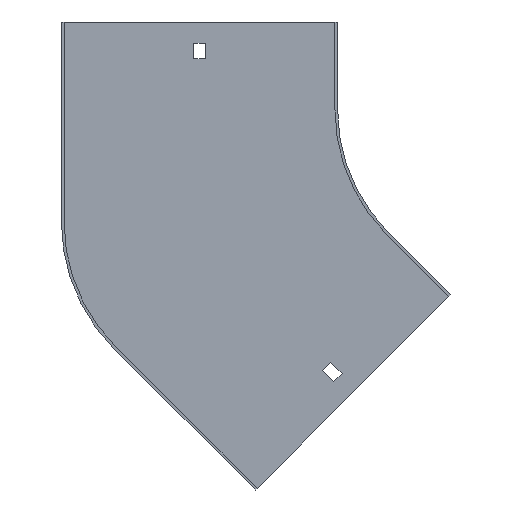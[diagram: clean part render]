
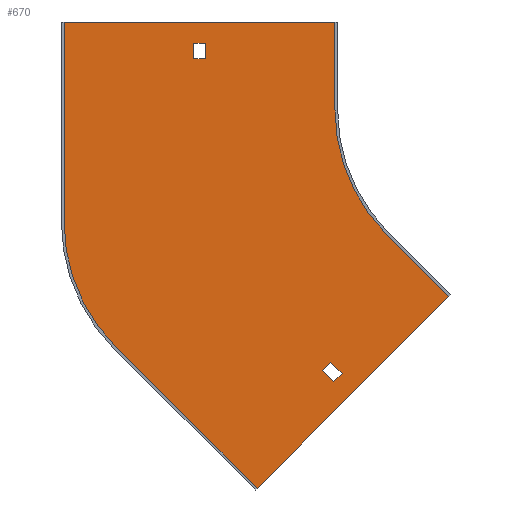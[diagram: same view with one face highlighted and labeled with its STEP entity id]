
A CAD part, front view. The second image highlights one B-rep face of the part: STEP entity #670.
In plain terms, the highlighted planar face has unit normal (0, -1, 0).
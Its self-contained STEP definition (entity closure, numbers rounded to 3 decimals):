
#5 = VERTEX_POINT ( 'NONE', #702 ) ;
#6 = FACE_BOUND ( 'NONE', #74, .T. ) ;
#9 = LINE ( 'NONE', #541, #732 ) ;
#13 = VERTEX_POINT ( 'NONE', #161 ) ;
#17 = CARTESIAN_POINT ( 'NONE',  ( -144.25, -1.5, -214.96 ) ) ;
#31 = CARTESIAN_POINT ( 'NONE',  ( -70.711, -1.5, -70.711 ) ) ;
#34 = VECTOR ( 'NONE', #714, 1000. ) ;
#37 = DIRECTION ( 'NONE',  ( 0., 1., 0. ) ) ;
#38 = DIRECTION ( 'NONE',  ( -0.707, 0., 0.707 ) ) ;
#40 = CARTESIAN_POINT ( 'NONE',  ( -100., -1.5, 50. ) ) ;
#46 = EDGE_CURVE ( 'NONE', #602, #584, #422, .T. ) ;
#53 = CARTESIAN_POINT ( 'NONE',  ( -255.5, -1.5, 50. ) ) ;
#56 = VERTEX_POINT ( 'NONE', #216 ) ;
#62 = VERTEX_POINT ( 'NONE', #633 ) ;
#65 = CARTESIAN_POINT ( 'NONE',  ( 0., -1.5, 0. ) ) ;
#71 = EDGE_CURVE ( 'NONE', #13, #527, #152, .T. ) ;
#74 = EDGE_LOOP ( 'NONE', ( #726, #441, #117, #862 ) ) ;
#76 = CARTESIAN_POINT ( 'NONE',  ( -34.295, -1.5, -105.005 ) ) ;
#83 = VERTEX_POINT ( 'NONE', #31 ) ;
#89 = CARTESIAN_POINT ( 'NONE',  ( -173.75, -1.5, 29. ) ) ;
#90 = CARTESIAN_POINT ( 'NONE',  ( 0., -1.5, 0. ) ) ;
#103 = VECTOR ( 'NONE', #419, 1000. ) ;
#104 = CARTESIAN_POINT ( 'NONE',  ( -144.25, -1.5, -214.96 ) ) ;
#109 = EDGE_CURVE ( 'NONE', #531, #525, #250, .T. ) ;
#113 = LINE ( 'NONE', #505, #620 ) ;
#116 = VERTEX_POINT ( 'NONE', #240 ) ;
#117 = ORIENTED_EDGE ( 'NONE', *, *, #355, .F. ) ;
#120 = EDGE_CURVE ( 'NONE', #594, #615, #304, .T. ) ;
#135 = ORIENTED_EDGE ( 'NONE', *, *, #694, .F. ) ;
#152 = LINE ( 'NONE', #761, #586 ) ;
#153 = CARTESIAN_POINT ( 'NONE',  ( -173.75, -1.5, 0. ) ) ;
#161 = CARTESIAN_POINT ( 'NONE',  ( -180.25, -1.5, 38. ) ) ;
#162 = CARTESIAN_POINT ( 'NONE',  ( 26.87, -1.5, -26.87 ) ) ;
#163 = LINE ( 'NONE', #302, #407 ) ;
#169 = CARTESIAN_POINT ( 'NONE',  ( -224.711, -1.5, -134.5 ) ) ;
#185 = PLANE ( 'NONE',  #513 ) ;
#211 = ORIENTED_EDGE ( 'NONE', *, *, #713, .F. ) ;
#216 = CARTESIAN_POINT ( 'NONE',  ( -100., -1.5, 0. ) ) ;
#223 = EDGE_LOOP ( 'NONE', ( #383, #393, #698, #786, #135, #211, #463, #343 ) ) ;
#224 = LINE ( 'NONE', #162, #789 ) ;
#240 = CARTESIAN_POINT ( 'NONE',  ( -180.25, -1.5, 29. ) ) ;
#250 = LINE ( 'NONE', #722, #352 ) ;
#268 = DIRECTION ( 'NONE',  ( 0., 0., -1. ) ) ;
#275 = VERTEX_POINT ( 'NONE', #17 ) ;
#279 = LINE ( 'NONE', #76, #103 ) ;
#295 = DIRECTION ( 'NONE',  ( 0., 0., -1. ) ) ;
#296 = DIRECTION ( 'NONE',  ( 0., 0., 1. ) ) ;
#302 = CARTESIAN_POINT ( 'NONE',  ( -254., -1.5, -63.789 ) ) ;
#304 = LINE ( 'NONE', #53, #545 ) ;
#312 = VERTEX_POINT ( 'NONE', #89 ) ;
#313 = CARTESIAN_POINT ( 'NONE',  ( -70.711, -1.5, -70.711 ) ) ;
#314 = FACE_OUTER_BOUND ( 'NONE', #223, .T. ) ;
#322 = ORIENTED_EDGE ( 'NONE', *, *, #723, .T. ) ;
#327 = DIRECTION ( 'NONE',  ( 0., -1., 0. ) ) ;
#343 = ORIENTED_EDGE ( 'NONE', *, *, #473, .F. ) ;
#352 = VECTOR ( 'NONE', #716, 1000. ) ;
#353 = VECTOR ( 'NONE', #295, 1000. ) ;
#355 = EDGE_CURVE ( 'NONE', #525, #400, #742, .T. ) ;
#358 = LINE ( 'NONE', #104, #374 ) ;
#366 = CARTESIAN_POINT ( 'NONE',  ( -173.75, -1.5, 38. ) ) ;
#374 = VECTOR ( 'NONE', #38, 1000. ) ;
#376 = DIRECTION ( 'NONE',  ( 1., 0., 0. ) ) ;
#378 = DIRECTION ( 'NONE',  ( 0.707, 0., -0.707 ) ) ;
#383 = ORIENTED_EDGE ( 'NONE', *, *, #120, .F. ) ;
#389 = DIRECTION ( 'NONE',  ( 0., 0., 1. ) ) ;
#393 = ORIENTED_EDGE ( 'NONE', *, *, #618, .F. ) ;
#400 = VERTEX_POINT ( 'NONE', #485 ) ;
#407 = VECTOR ( 'NONE', #296, 1000. ) ;
#413 = EDGE_CURVE ( 'NONE', #56, #83, #512, .T. ) ;
#419 = DIRECTION ( 'NONE',  ( -0.707, 0., -0.707 ) ) ;
#422 = CIRCLE ( 'NONE', #766, 100. ) ;
#428 = CARTESIAN_POINT ( 'NONE',  ( -154., -1.5, -63.789 ) ) ;
#441 = ORIENTED_EDGE ( 'NONE', *, *, #571, .F. ) ;
#463 = ORIENTED_EDGE ( 'NONE', *, *, #413, .F. ) ;
#473 = EDGE_CURVE ( 'NONE', #615, #56, #9, .T. ) ;
#478 = DIRECTION ( 'NONE',  ( 0.707, 0., -0.707 ) ) ;
#485 = CARTESIAN_POINT ( 'NONE',  ( -100.586, -1.5, -154.326 ) ) ;
#504 = EDGE_CURVE ( 'NONE', #275, #602, #358, .T. ) ;
#505 = CARTESIAN_POINT ( 'NONE',  ( 0., -1.5, 29. ) ) ;
#512 = CIRCLE ( 'NONE', #791, 100. ) ;
#513 = AXIS2_PLACEMENT_3D ( 'NONE', #65, #327, #666 ) ;
#525 = VERTEX_POINT ( 'NONE', #696 ) ;
#527 = VERTEX_POINT ( 'NONE', #366 ) ;
#531 = VERTEX_POINT ( 'NONE', #773 ) ;
#541 = CARTESIAN_POINT ( 'NONE',  ( -100., -1.5, 50. ) ) ;
#542 = ORIENTED_EDGE ( 'NONE', *, *, #573, .T. ) ;
#545 = VECTOR ( 'NONE', #376, 1000. ) ;
#571 = EDGE_CURVE ( 'NONE', #400, #5, #224, .T. ) ;
#573 = EDGE_CURVE ( 'NONE', #527, #312, #838, .T. ) ;
#578 = ORIENTED_EDGE ( 'NONE', *, *, #71, .T. ) ;
#583 = CARTESIAN_POINT ( 'NONE',  ( -180.25, -1.5, 0. ) ) ;
#584 = VERTEX_POINT ( 'NONE', #718 ) ;
#586 = VECTOR ( 'NONE', #695, 1000. ) ;
#590 = LINE ( 'NONE', #583, #704 ) ;
#594 = VERTEX_POINT ( 'NONE', #675 ) ;
#596 = EDGE_LOOP ( 'NONE', ( #578, #542, #322, #806 ) ) ;
#602 = VERTEX_POINT ( 'NONE', #169 ) ;
#610 = DIRECTION ( 'NONE',  ( 0., -1., 0. ) ) ;
#613 = DIRECTION ( 'NONE',  ( 0., 0., -1. ) ) ;
#615 = VERTEX_POINT ( 'NONE', #40 ) ;
#618 = EDGE_CURVE ( 'NONE', #584, #594, #163, .T. ) ;
#620 = VECTOR ( 'NONE', #796, 1000. ) ;
#628 = DIRECTION ( 'NONE',  ( 0.707, 0., 0.707 ) ) ;
#629 = EDGE_CURVE ( 'NONE', #5, #531, #790, .T. ) ;
#633 = CARTESIAN_POINT ( 'NONE',  ( -35.355, -1.5, -106.066 ) ) ;
#638 = VECTOR ( 'NONE', #478, 1000. ) ;
#649 = FACE_BOUND ( 'NONE', #596, .T. ) ;
#654 = CARTESIAN_POINT ( 'NONE',  ( -122.86, -1.5, -122.86 ) ) ;
#666 = DIRECTION ( 'NONE',  ( 0., 0., -1. ) ) ;
#670 = ADVANCED_FACE ( 'NONE', ( #6, #314, #649 ), #185, .T. ) ;
#675 = CARTESIAN_POINT ( 'NONE',  ( -254., -1.5, 50. ) ) ;
#683 = CARTESIAN_POINT ( 'NONE',  ( -127.456, -1.5, -127.456 ) ) ;
#694 = EDGE_CURVE ( 'NONE', #62, #275, #279, .T. ) ;
#695 = DIRECTION ( 'NONE',  ( 1., 0., 0. ) ) ;
#696 = CARTESIAN_POINT ( 'NONE',  ( -106.95, -1.5, -147.962 ) ) ;
#698 = ORIENTED_EDGE ( 'NONE', *, *, #46, .F. ) ;
#702 = CARTESIAN_POINT ( 'NONE',  ( -95.99, -1.5, -149.73 ) ) ;
#704 = VECTOR ( 'NONE', #389, 1000. ) ;
#713 = EDGE_CURVE ( 'NONE', #83, #62, #783, .T. ) ;
#714 = DIRECTION ( 'NONE',  ( -0.707, 0., 0.707 ) ) ;
#716 = DIRECTION ( 'NONE',  ( -0.707, 0., -0.707 ) ) ;
#718 = CARTESIAN_POINT ( 'NONE',  ( -254., -1.5, -63.789 ) ) ;
#722 = CARTESIAN_POINT ( 'NONE',  ( 20.506, -1.5, -20.506 ) ) ;
#723 = EDGE_CURVE ( 'NONE', #312, #116, #113, .T. ) ;
#726 = ORIENTED_EDGE ( 'NONE', *, *, #629, .F. ) ;
#732 = VECTOR ( 'NONE', #268, 1000. ) ;
#742 = LINE ( 'NONE', #683, #638 ) ;
#761 = CARTESIAN_POINT ( 'NONE',  ( 0., -1.5, 38. ) ) ;
#766 = AXIS2_PLACEMENT_3D ( 'NONE', #428, #37, #834 ) ;
#773 = CARTESIAN_POINT ( 'NONE',  ( -102.354, -1.5, -143.366 ) ) ;
#783 = LINE ( 'NONE', #313, #835 ) ;
#786 = ORIENTED_EDGE ( 'NONE', *, *, #504, .F. ) ;
#789 = VECTOR ( 'NONE', #628, 1000. ) ;
#790 = LINE ( 'NONE', #654, #34 ) ;
#791 = AXIS2_PLACEMENT_3D ( 'NONE', #90, #610, #613 ) ;
#796 = DIRECTION ( 'NONE',  ( -1., 0., 0. ) ) ;
#806 = ORIENTED_EDGE ( 'NONE', *, *, #831, .T. ) ;
#831 = EDGE_CURVE ( 'NONE', #116, #13, #590, .T. ) ;
#834 = DIRECTION ( 'NONE',  ( 0., 0., -1. ) ) ;
#835 = VECTOR ( 'NONE', #378, 1000. ) ;
#838 = LINE ( 'NONE', #153, #353 ) ;
#862 = ORIENTED_EDGE ( 'NONE', *, *, #109, .F. ) ;
